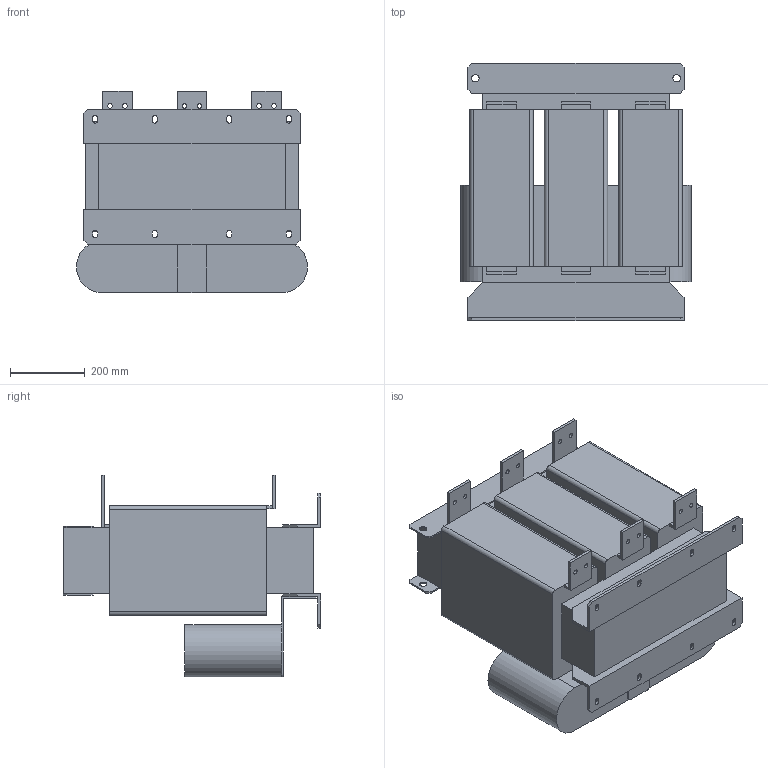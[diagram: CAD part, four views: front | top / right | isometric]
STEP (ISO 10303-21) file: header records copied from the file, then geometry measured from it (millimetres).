
FILE_DESCRIPTION(/* description */ (''),/* implementation_level */ '2;1');
FILE_NAME(/* name */ 'Sin-T4-1200.stp',/* time_stamp */ '2025-03-10T18:35:25+04:00',/* author */ ('Лео'),/* organization */ (''),/* preprocessor_version */ 'ST-DEVELOPER v19.2',/* originating_system */ 'Autodesk Inventor 2024',/* authorisation */ '');
FILE_SCHEMA (('AUTOMOTIVE_DESIGN { 1 0 10303 214 3 1 1 }'));
Length unit declared in the file: millimetre
Products named in the file (1): Sin-T4-004
Bounding box: 620 x 690 x 542 mm (x, y, z)
Volume: 109343979.4 mm3; surface area: 3520131.3 mm2
Topology: 23 solids, 23 shells, 224 faces, 534 edges, 356 vertices
Faces by surface type: plane 174, cylinder 50
Full cylindrical faces by diameter (mm): 12 x12, 20 x4
Entity records: 6555 total; most frequent: CARTESIAN_POINT 1115, DIRECTION 1084, ORIENTED_EDGE 1068, EDGE_CURVE 534, LINE 434, VECTOR 434, VERTEX_POINT 356, AXIS2_PLACEMENT_3D 325
